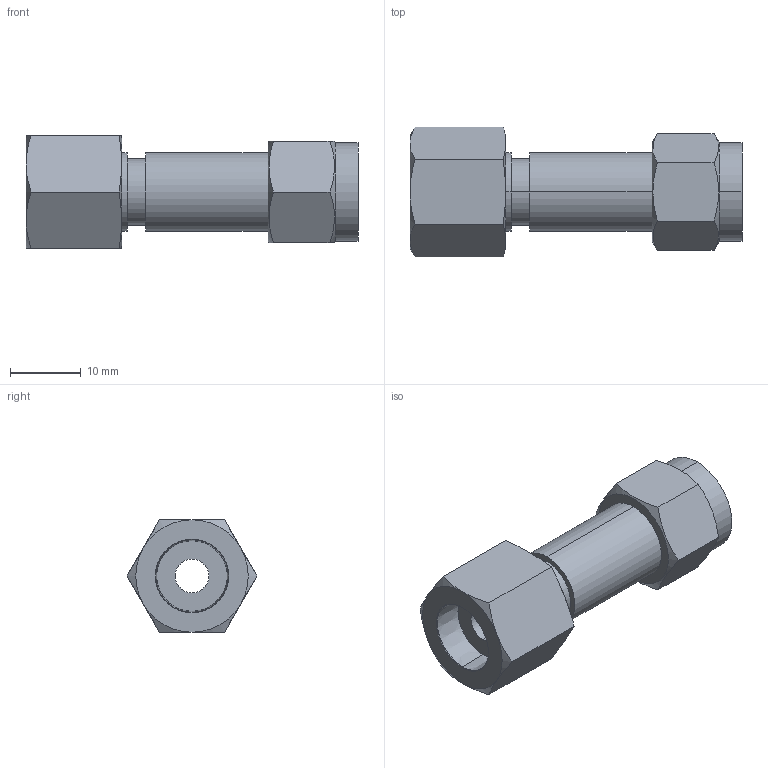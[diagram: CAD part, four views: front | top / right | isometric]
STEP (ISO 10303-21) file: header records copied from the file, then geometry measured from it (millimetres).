
FILE_DESCRIPTION (( 'STEP AP203' ), '1' );
FILE_NAME ('DSS04-02 SS.STEP', '2009-09-08T09:15:28', ( ' ' ), ( '' ), 'SwSTEP 2.0', 'SolidWorks 2008', '' );
FILE_SCHEMA (( 'CONFIG_CONTROL_DESIGN' ));
Length unit declared in the file: millimetre
Products named in the file (1): DSS04-02 SS
Bounding box: 46.9 x 18.34 x 15.88 mm (x, y, z)
Volume: 5720.4 mm3; surface area: 3480.2 mm2
Topology: 1 solids, 1 shells, 52 faces, 116 edges, 72 vertices
Faces by surface type: cone 20, plane 20, cylinder 12
Entity records: 1677 total; most frequent: CARTESIAN_POINT 481, ORIENTED_EDGE 232, DIRECTION 226, EDGE_CURVE 116, AXIS2_PLACEMENT_3D 97, VERTEX_POINT 72, EDGE_LOOP 60, ADVANCED_FACE 52
